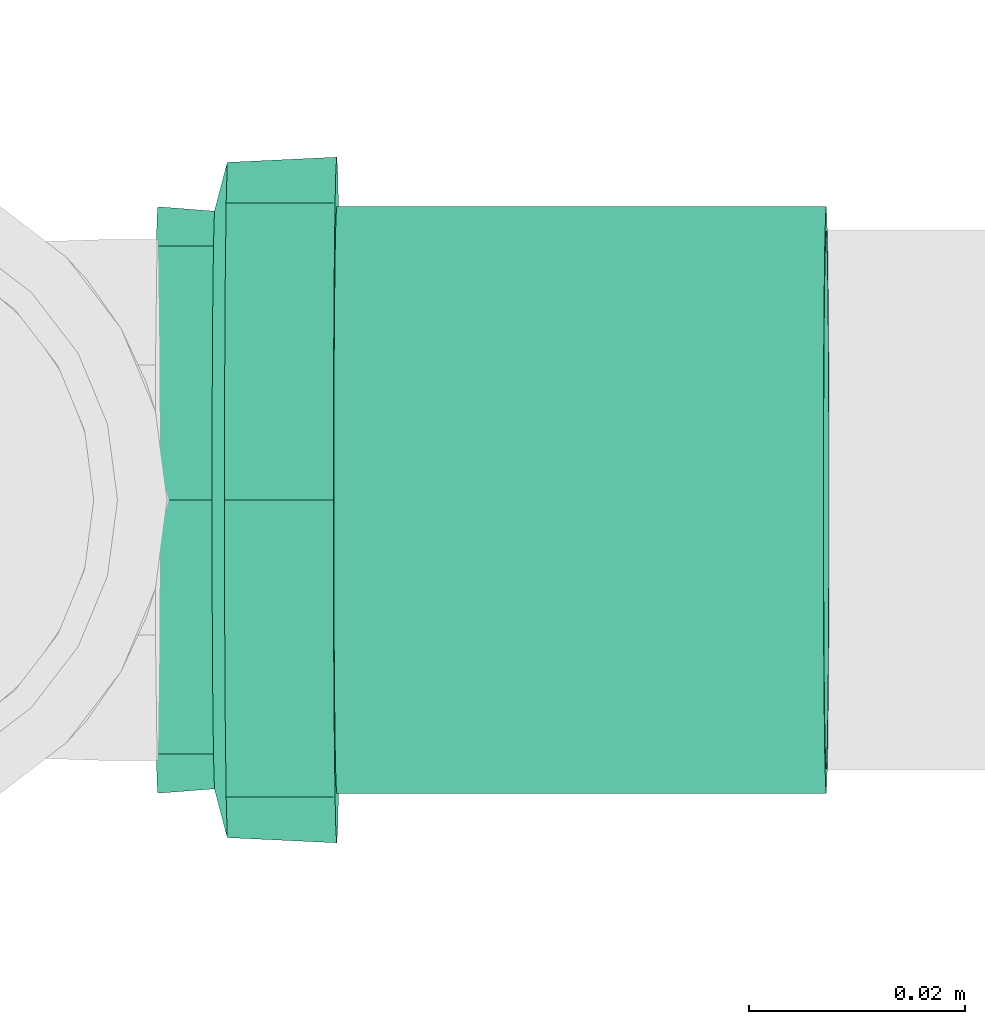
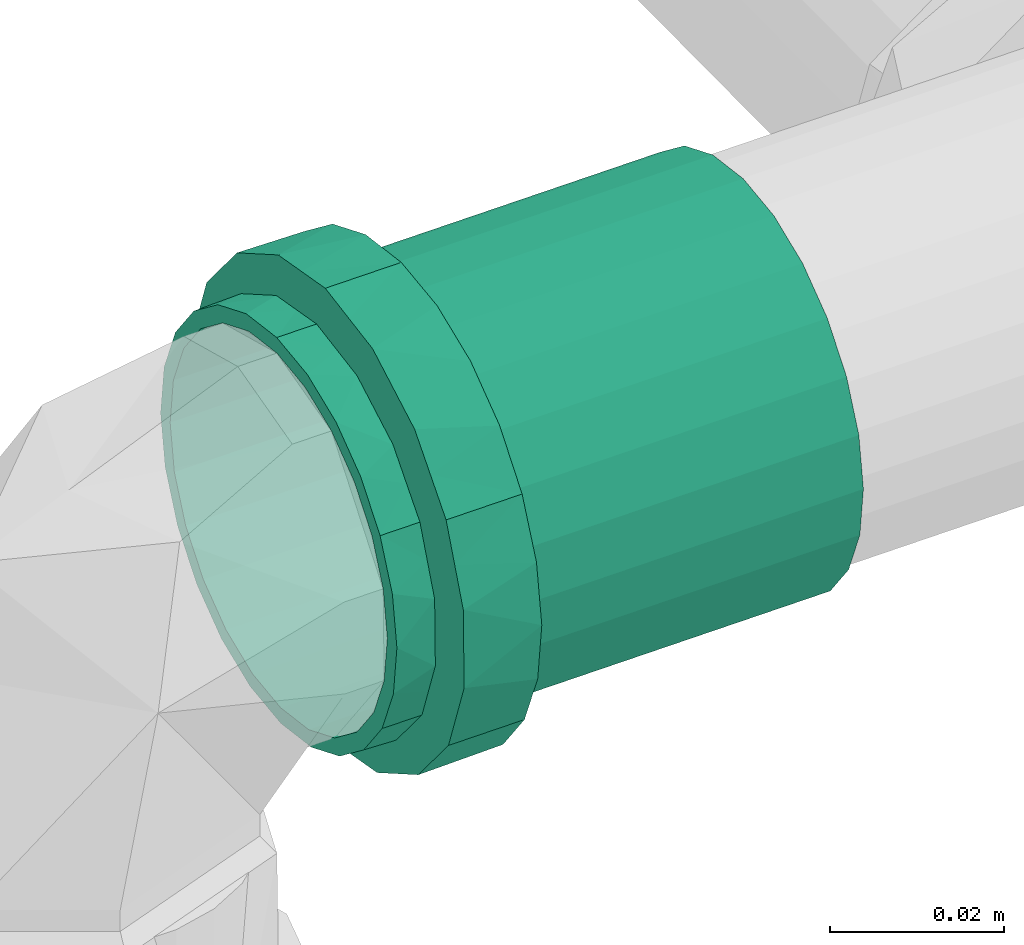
# One storey, part 150 of 589: 1 flow fitting.
"""IFC2X3 building model written with IfcOpenShell, lengths in millimetres."""

from ifc_helpers import new_model, entity, si_unit, converted_unit, derived_unit, direction, frame, origin, place, context, subcontext, project, spatial, faceted_brep, source, transform, mapped, material, type_object, type_shapes, element, save


model = new_model("IFC2X3")

# Units and contexts
model_context = context("Model", 3, precision=0.01, world=origin(), true_north=direction((6.123031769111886e-17, 1.0)))
body_context = subcontext(model_context, "Body", "Model", "MODEL_VIEW")
ifc_project = project(units=[si_unit("LENGTHUNIT", "METRE", prefix="MILLI"), si_unit("AREAUNIT", "SQUARE_METRE"), si_unit("VOLUMEUNIT", "CUBIC_METRE"), converted_unit("PLANEANGLEUNIT", "DEGREE", entity("IfcRatioMeasure", 0.017453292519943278), si_unit("PLANEANGLEUNIT", "RADIAN"), dimensions=[0, 0, 0, 0, 0, 0, 0]), si_unit("MASSUNIT", "GRAM", prefix="KILO"), derived_unit("MASSDENSITYUNIT", [(si_unit("MASSUNIT", "GRAM", prefix="KILO"), 1), (si_unit("LENGTHUNIT", "METRE"), -3)]), derived_unit("IONCONCENTRATIONUNIT", [(si_unit("MASSUNIT", "GRAM", prefix="KILO"), 1), (si_unit("LENGTHUNIT", "METRE"), -3)]), derived_unit("MOMENTOFINERTIAUNIT", [(si_unit("LENGTHUNIT", "METRE"), 4)]), si_unit("TIMEUNIT", "SECOND"), si_unit("FREQUENCYUNIT", "HERTZ"), si_unit("THERMODYNAMICTEMPERATUREUNIT", "DEGREE_CELSIUS"), derived_unit("THERMALTRANSMITTANCEUNIT", [(si_unit("MASSUNIT", "GRAM", prefix="KILO"), 1), (si_unit("THERMODYNAMICTEMPERATUREUNIT", "KELVIN"), -1), (si_unit("TIMEUNIT", "SECOND"), -3)]), derived_unit("THERMALCONDUCTANCEUNIT", [(si_unit("MASSUNIT", "GRAM", prefix="KILO"), 1), (si_unit("THERMODYNAMICTEMPERATUREUNIT", "KELVIN"), -1), (si_unit("TIMEUNIT", "SECOND"), -3), (si_unit("LENGTHUNIT", "METRE"), 1)]), derived_unit("VOLUMETRICFLOWRATEUNIT", [(si_unit("LENGTHUNIT", "METRE"), 3), (si_unit("TIMEUNIT", "SECOND"), -1)]), derived_unit("MASSFLOWRATEUNIT", [(si_unit("MASSUNIT", "GRAM", prefix="KILO"), 1), (si_unit("TIMEUNIT", "SECOND"), -1)]), derived_unit("ROTATIONALFREQUENCYUNIT", [(si_unit("TIMEUNIT", "SECOND"), -1)]), si_unit("ELECTRICCURRENTUNIT", "AMPERE"), si_unit("ELECTRICVOLTAGEUNIT", "VOLT"), si_unit("POWERUNIT", "WATT"), si_unit("FORCEUNIT", "NEWTON", prefix="KILO"), si_unit("ILLUMINANCEUNIT", "LUX"), si_unit("LUMINOUSFLUXUNIT", "LUMEN"), si_unit("LUMINOUSINTENSITYUNIT", "CANDELA"), derived_unit("USERDEFINED", [(si_unit("MASSUNIT", "GRAM", prefix="KILO"), -1), (si_unit("LENGTHUNIT", "METRE"), -2), (si_unit("TIMEUNIT", "SECOND"), 3), (si_unit("LUMINOUSFLUXUNIT", "LUMEN"), 1)]), derived_unit("USERDEFINED", [(si_unit("MASSUNIT", "GRAM", prefix="KILO"), 1), (si_unit("TIMEUNIT", "SECOND"), -3), (si_unit("LENGTHUNIT", "METRE"), 3), (si_unit("ELECTRICCURRENTUNIT", "AMPERE"), -2)]), derived_unit("SOUNDPOWERUNIT", [(si_unit("MASSUNIT", "GRAM", prefix="KILO"), 1), (si_unit("TIMEUNIT", "SECOND"), -3), (si_unit("LENGTHUNIT", "METRE"), 2)]), derived_unit("SOUNDPRESSUREUNIT", [(si_unit("MASSUNIT", "GRAM", prefix="KILO"), 1), (si_unit("LENGTHUNIT", "METRE"), -1), (si_unit("TIMEUNIT", "SECOND"), -2)]), derived_unit("LINEARVELOCITYUNIT", [(si_unit("LENGTHUNIT", "METRE"), 1), (si_unit("TIMEUNIT", "SECOND"), -1)]), si_unit("PRESSUREUNIT", "PASCAL"), derived_unit("USERDEFINED", [(si_unit("MASSUNIT", "GRAM", prefix="KILO"), 1), (si_unit("LENGTHUNIT", "METRE"), -2), (si_unit("TIMEUNIT", "SECOND"), -2)]), derived_unit("LINEARFORCEUNIT", [(si_unit("MASSUNIT", "GRAM", prefix="KILO"), 1), (si_unit("TIMEUNIT", "SECOND"), -2)]), derived_unit("PLANARFORCEUNIT", [(si_unit("MASSUNIT", "GRAM", prefix="KILO"), 1), (si_unit("LENGTHUNIT", "METRE"), -1), (si_unit("TIMEUNIT", "SECOND"), -2)]), derived_unit("SPECIFICHEATCAPACITYUNIT", [(si_unit("THERMODYNAMICTEMPERATUREUNIT", "KELVIN"), -1), (si_unit("LENGTHUNIT", "METRE"), 2), (si_unit("TIMEUNIT", "SECOND"), -2)]), derived_unit("HEATINGVALUEUNIT", [(si_unit("LENGTHUNIT", "METRE"), 2), (si_unit("TIMEUNIT", "SECOND"), -2)]), derived_unit("VAPORPERMEABILITYUNIT", [(si_unit("LENGTHUNIT", "METRE"), -1), (si_unit("TIMEUNIT", "SECOND"), 1)]), derived_unit("DYNAMICVISCOSITYUNIT", [(si_unit("MASSUNIT", "GRAM", prefix="KILO"), 1), (si_unit("TIMEUNIT", "SECOND"), -1), (si_unit("LENGTHUNIT", "METRE"), -1)]), derived_unit("THERMALEXPANSIONCOEFFICIENTUNIT", [(si_unit("THERMODYNAMICTEMPERATUREUNIT", "KELVIN"), -1)]), derived_unit("MODULUSOFELASTICITYUNIT", [(si_unit("MASSUNIT", "GRAM", prefix="KILO"), 1), (si_unit("LENGTHUNIT", "METRE"), -1), (si_unit("TIMEUNIT", "SECOND"), -2)]), derived_unit("ISOTHERMALMOISTURECAPACITYUNIT", [(si_unit("LENGTHUNIT", "METRE"), 3), (si_unit("MASSUNIT", "GRAM", prefix="KILO"), -1)]), derived_unit("MOISTUREDIFFUSIVITYUNIT", [(si_unit("TIMEUNIT", "SECOND"), -1), (si_unit("LENGTHUNIT", "METRE"), 2)])], contexts=[model_context])

# Site, building, storey
site_placement = place(None, origin())
site = spatial("IfcSite", under=ifc_project, at=site_placement, Name="Default", CompositionType="ELEMENT")
building_placement = place(site_placement, origin())
building = spatial("IfcBuilding", under=site, at=building_placement, CompositionType="ELEMENT")
storey_placement = place(building_placement, frame((0.0, 0.0, 100.0)))
storey = spatial("IfcBuildingStorey", under=building, at=storey_placement, Name="TÉRREO", CompositionType="ELEMENT", Elevation=100.0)

# Flow fitting
ifc_material = material(Name="PVC Série Normal")
pipe_fitting_type = type_object("IfcPipeFittingType", Name="PVC Esgoto_Luva Simples para Conexão_Rodrigo MEP:Standard", PredefinedType="NOTDEFINED", material=ifc_material)
shared_shape = source(origin(), body_context, "Body", "Brep", [
    faceted_brep([(16.599999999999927, 15.900000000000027, -27.53960784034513), (16.599999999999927, 22.485995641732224, -22.485995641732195), (16.599999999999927, 13.599999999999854, -23.555890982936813), (16.599999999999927, 7.039878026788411, -26.273182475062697), (16.599999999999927, 8.2304456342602, -30.71644127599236), (16.599999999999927, 19.233304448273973, -19.233304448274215), (16.599999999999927, 27.539607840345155, -15.899999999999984), (16.599999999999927, 23.55589098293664, -13.600000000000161), (16.599999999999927, 26.273182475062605, -7.03987802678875), (16.599999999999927, 30.716441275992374, -8.230445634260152), (16.599999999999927, 27.2, 0.0), (16.599999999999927, 31.8, 0.0), (16.599999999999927, 26.273182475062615, 7.0398780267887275), (16.599999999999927, 30.71644127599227, 8.23044563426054), (16.599999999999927, 23.555890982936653, 13.60000000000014), (16.599999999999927, 27.539607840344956, 15.900000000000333), (16.599999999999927, 19.233304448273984, 19.2333044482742), (16.599999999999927, 22.485995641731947, 22.48599564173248), (16.599999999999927, 13.599999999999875, 23.555890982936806), (16.599999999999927, 15.899999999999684, 27.53960784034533), (16.599999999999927, 7.039878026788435, 26.27318247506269), (16.599999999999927, 8.230445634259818, 30.716441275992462), (16.599999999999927, 0.0, 27.2), (16.599999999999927, 0.0, 31.8), (16.599999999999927, -7.039878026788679, 26.273182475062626), (16.599999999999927, -8.230445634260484, 30.716441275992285), (16.599999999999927, -13.600000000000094, 23.555890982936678), (16.599999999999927, -15.900000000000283, 27.53960784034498), (16.599999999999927, -19.23330444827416, 19.233304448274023), (16.599999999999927, -22.485995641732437, 22.48599564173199), (16.599999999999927, -23.55589098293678, 13.59999999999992), (16.599999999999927, -27.539607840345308, 15.899999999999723), (16.599999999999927, -30.71644127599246, 8.230445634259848), (16.599999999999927, -26.273182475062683, 7.039878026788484), (16.599999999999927, -31.8, 0.0), (16.599999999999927, -27.2, 0.0), (16.599999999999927, -30.71644127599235, -8.23044563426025), (16.599999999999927, -26.273182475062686, -7.03987802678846), (16.599999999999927, -27.53960784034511, -15.90000000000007), (16.599999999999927, -23.55589098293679, -13.599999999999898), (16.599999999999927, -22.485995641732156, -22.485995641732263), (16.599999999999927, -19.233304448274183, -19.233304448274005), (16.599999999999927, -15.899999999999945, -27.53960784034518), (16.599999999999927, -13.600000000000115, -23.555890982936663), (16.599999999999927, -8.230445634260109, -30.716441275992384), (16.599999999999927, -7.039878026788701, -26.273182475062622), (16.599999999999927, 0.0, -31.8), (16.599999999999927, 0.0, -27.2), (6.500000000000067, -10.708108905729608, 29.429219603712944), (6.500000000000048, -24.359073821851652, 20.44200387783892), (6.500000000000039, -27.120498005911, 15.6595386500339), (6.50000000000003, -29.881922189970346, 10.877073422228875), (6.500000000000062, -15.89769721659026, 27.540937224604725), (6.500000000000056, -20.128385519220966, 23.991470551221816), (6.50000000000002, -30.840961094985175, 5.438536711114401), (6.5000000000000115, -31.8, 0.0), (6.50000000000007, -5.518520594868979, 31.317501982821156), (6.500000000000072, 5.526376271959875, 31.316116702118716), (6.50000000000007, 0.00392783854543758, 31.316809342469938), (6.500000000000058, 20.134403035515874, 23.986420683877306), (6.500000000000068, 10.715490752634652, 29.42653259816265), (6.500000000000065, 15.904605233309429, 27.536948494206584), (6.500000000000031, 29.8846497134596, 10.869577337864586), (6.500000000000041, 27.12442527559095, 15.652735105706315), (6.5000000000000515, 24.364200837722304, 20.435892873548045), (6.5000000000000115, 31.8, 0.0), (6.499999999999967, 24.364200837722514, -20.435892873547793), (6.499999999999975, 27.12442527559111, -15.652735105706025), (6.499999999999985, 29.884649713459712, -10.869577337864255), (6.4999999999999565, 15.904605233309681, -27.53694849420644), (6.499999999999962, 20.134403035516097, -23.986420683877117), (6.499999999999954, 10.715490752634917, -29.42653259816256), (6.499999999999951, 5.526376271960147, -31.31611670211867), (6.499999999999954, -5.518520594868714, -31.317501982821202), (6.499999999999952, 0.003927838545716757, -31.316809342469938), (6.499999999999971, -20.128385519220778, -23.99147055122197), (6.499999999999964, -15.897697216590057, -27.54093722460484), (6.499999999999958, -10.70810890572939, -29.42921960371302), (6.499999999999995, -29.881922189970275, -10.877073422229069), (6.499999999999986, -27.12049800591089, -15.659538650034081), (6.499999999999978, -24.359073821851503, -20.442003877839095), (6.500000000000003, -30.840961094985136, -5.438536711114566), (6.499999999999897, -30.696173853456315, -6.259599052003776), (62.0, 13.600000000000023, -23.55589098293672), (62.0, 19.233304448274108, -19.23330444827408), (62.0, 12.499999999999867, -21.650635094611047), (62.0, 6.470476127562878, -24.14814565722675), (62.0, 7.039878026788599, -26.273182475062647), (62.0, 17.677669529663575, -17.677669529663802), (62.0, 23.55589098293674, -13.599999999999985), (62.0, 21.65063509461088, -12.50000000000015), (62.0, 24.148145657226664, -6.470476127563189), (62.0, 26.27318247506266, -7.039878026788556), (62.0, 25.0, 0.0), (62.0, 27.2, 0.0), (62.0, 24.148145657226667, 6.4704761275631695), (62.0, 26.273182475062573, 7.03987802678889), (62.0, 21.650635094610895, 12.500000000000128), (62.0, 23.555890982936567, 13.600000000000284), (62.0, 17.67766952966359, 17.67766952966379), (62.0, 19.233304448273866, 19.233304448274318), (62.0, 12.499999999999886, 21.650635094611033), (62.0, 13.59999999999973, 23.55589098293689), (62.0, 6.4704761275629, 24.14814565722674), (62.0, 7.039878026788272, 26.273182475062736), (62.0, 0.0, 25.0), (62.0, 0.0, 27.2), (62.0, -6.470476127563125, 24.148145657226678), (62.0, -7.039878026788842, 26.273182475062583), (62.0, -12.500000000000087, 21.650635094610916), (62.0, -13.600000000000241, 23.555890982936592), (62.0, -17.677669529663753, 17.677669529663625), (62.0, -19.233304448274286, 19.2333044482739), (62.0, -21.65063509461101, 12.499999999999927), (62.0, -23.555890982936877, 13.599999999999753), (62.0, -26.27318247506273, 7.039878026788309), (62.0, -24.14814565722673, 6.470476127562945), (62.0, -27.2, 0.0), (62.0, -25.0, 0.0), (62.0, -26.27318247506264, -7.0398780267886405), (62.0, -24.148145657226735, -6.470476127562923), (62.0, -23.5558909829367, -13.600000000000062), (62.0, -21.650635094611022, -12.499999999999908), (62.0, -19.233304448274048, -19.233304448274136), (62.0, -17.67766952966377, -17.677669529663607), (62.0, -13.599999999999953, -23.555890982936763), (62.0, -12.500000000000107, -21.650635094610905), (62.0, -7.039878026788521, -26.27318247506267), (62.0, -6.470476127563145, -24.148145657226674), (62.0, 0.0, -27.2), (62.0, 0.0, -25.0), (0.0, 12.499999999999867, -21.650635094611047), (0.0, 19.233304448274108, -19.23330444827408), (0.0, 13.600000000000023, -23.55589098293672), (0.0, 6.470476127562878, -24.14814565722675), (0.0, 17.677669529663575, -17.677669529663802), (0.0, 23.55589098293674, -13.599999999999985), (0.0, 21.65063509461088, -12.50000000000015), (0.0, 24.148145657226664, -6.470476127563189), (0.0, 26.27318247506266, -7.039878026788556), (0.0, 25.0, 0.0), (0.0, 27.2, 0.0), (0.0, 24.148145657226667, 6.4704761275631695), (0.0, 26.273182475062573, 7.03987802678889), (0.0, 21.650635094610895, 12.500000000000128), (0.0, 23.555890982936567, 13.600000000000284), (0.0, 17.67766952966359, 17.67766952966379), (0.0, 19.233304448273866, 19.233304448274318), (0.0, 12.499999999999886, 21.650635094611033), (0.0, 13.59999999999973, 23.55589098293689), (0.0, 6.4704761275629, 24.14814565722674), (0.0, 7.039878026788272, 26.273182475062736), (0.0, 0.0, 25.0), (0.0, 0.0, 27.2), (0.0, -6.470476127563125, 24.148145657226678), (0.0, -7.039878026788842, 26.273182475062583), (0.0, -12.500000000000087, 21.650635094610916), (0.0, -13.600000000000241, 23.555890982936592), (0.0, -17.677669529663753, 17.677669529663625), (0.0, -19.233304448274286, 19.2333044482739), (0.0, -21.65063509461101, 12.499999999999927), (0.0, -23.555890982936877, 13.599999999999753), (0.0, -26.27318247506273, 7.039878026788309), (0.0, -24.14814565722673, 6.470476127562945), (0.0, -27.2, 0.0), (0.0, -25.0, 0.0), (0.0, -26.27318247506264, -7.0398780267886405), (0.0, -24.148145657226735, -6.470476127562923), (0.0, -23.5558909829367, -13.600000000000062), (0.0, -21.650635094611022, -12.499999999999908), (0.0, -19.233304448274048, -19.233304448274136), (0.0, -17.67766952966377, -17.677669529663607), (0.0, -13.599999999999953, -23.555890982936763), (0.0, -12.500000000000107, -21.650635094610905), (0.0, -7.039878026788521, -26.27318247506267), (0.0, -6.470476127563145, -24.148145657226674), (0.0, 0.0, -27.2), (0.0, 0.0, -25.0), (0.0, 7.039878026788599, -26.273182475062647), (5.300000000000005, -26.37968999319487, 4.651830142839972), (5.299999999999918, -26.25584678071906, 5.354122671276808), (5.300000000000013, -25.559379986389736, 9.303660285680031), (5.300000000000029, -20.835434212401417, 17.48498444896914), (5.300000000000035, -17.216732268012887, 20.521006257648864), (5.300000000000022, -23.19740709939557, 13.394322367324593), (5.3000000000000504, -4.720244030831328, 26.787297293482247), (5.300000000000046, -9.15913717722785, 25.172162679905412), (5.299999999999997, -27.2, 0.0), (5.300000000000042, -13.598030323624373, 23.557028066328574), (5.300000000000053, 9.165451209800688, 25.169864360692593), (5.300000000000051, 13.603939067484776, 23.55361632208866), (5.300000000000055, 4.7269633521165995, 26.786112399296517), (5.300000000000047, 17.221879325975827, 20.516686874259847), (5.300000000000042, 20.839819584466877, 17.479757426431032), (5.3000000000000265, 25.56171296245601, 9.297248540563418), (5.299999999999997, 27.2, 0.0), (5.3000000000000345, 23.20076627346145, 13.388502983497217), (5.300000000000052, 0.003359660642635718, 26.786704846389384), (5.299999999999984, 25.56171296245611, -9.29724854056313), (5.299999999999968, 20.839819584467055, -17.47975742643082), (5.2999999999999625, 17.22187932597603, -20.516686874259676), (5.299999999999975, 23.200766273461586, -13.388502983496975), (5.299999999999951, 4.726963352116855, -26.78611239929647), (5.2999999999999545, 9.165451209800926, -25.169864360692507), (5.299999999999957, 13.603939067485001, -23.553616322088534), (5.29999999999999, -26.379689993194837, -4.651830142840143), (5.299999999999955, -9.159137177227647, -25.17216267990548), (5.299999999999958, -13.5980303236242, -23.55702806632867), (5.299999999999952, -4.720244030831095, -26.787297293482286), (5.299999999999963, -17.216732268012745, -20.52100625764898), (5.299999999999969, -20.83543421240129, -17.484984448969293), (5.299999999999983, -25.559379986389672, -9.303660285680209), (5.299999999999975, -23.197407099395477, -13.394322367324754), (5.299999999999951, 0.003359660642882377, -26.78670484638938), (39.0, -25.0, 0.0), (39.0, 25.0, 0.0)], [[[0, 1, 2]], [[0, 2, 3]], [[3, 4, 0]], [[2, 1, 5]], [[6, 5, 1]], [[7, 5, 6]], [[8, 7, 6]], [[8, 6, 9]], [[8, 9, 10]], [[10, 9, 11]], [[12, 10, 11]], [[12, 11, 13]], [[14, 12, 13]], [[14, 13, 15]], [[16, 14, 15]], [[15, 17, 16]], [[17, 18, 16]], [[17, 19, 18]], [[18, 19, 20]], [[21, 20, 19]], [[20, 21, 22]], [[22, 21, 23]], [[22, 23, 24]], [[24, 23, 25]], [[24, 25, 26]], [[27, 26, 25]], [[27, 28, 26]], [[28, 27, 29]], [[30, 28, 29]], [[31, 30, 29]], [[32, 30, 31]], [[33, 30, 32]], [[33, 32, 34]], [[35, 33, 34]], [[36, 35, 34]], [[36, 37, 35]], [[37, 36, 38]], [[39, 37, 38]], [[39, 38, 40]], [[39, 40, 41]], [[40, 42, 41]], [[41, 42, 43]], [[43, 42, 44]], [[44, 45, 43]], [[46, 45, 44]], [[4, 47, 46]], [[46, 47, 45]], [[4, 3, 47]], [[48, 27, 25]], [[31, 29, 49]], [[31, 49, 50, 51]], [[52, 53, 27]], [[32, 51, 54]], [[54, 55, 34]], [[54, 34, 32]], [[25, 56, 48]], [[49, 29, 53]], [[23, 57, 58, 56]], [[59, 19, 17]], [[27, 53, 29]], [[48, 52, 27]], [[31, 51, 32]], [[57, 23, 21]], [[60, 19, 61]], [[15, 62, 63, 64]], [[19, 60, 21]], [[15, 13, 62]], [[17, 64, 59]], [[57, 21, 60]], [[23, 56, 25]], [[15, 64, 17]], [[13, 65, 62]], [[13, 11, 65]], [[59, 61, 19]], [[65, 11, 9]], [[6, 1, 66]], [[6, 66, 67, 68]], [[69, 70, 0]], [[68, 65, 9]], [[71, 69, 0]], [[71, 0, 4]], [[4, 72, 71]], [[66, 1, 70]], [[46, 73, 74, 72]], [[75, 76, 42]], [[0, 70, 1]], [[75, 42, 40]], [[6, 68, 9]], [[73, 46, 44]], [[77, 42, 76]], [[38, 78, 79, 80]], [[42, 77, 44]], [[38, 36, 78]], [[40, 80, 75]], [[73, 44, 77]], [[46, 72, 4]], [[38, 80, 40]], [[36, 81, 82, 78]], [[55, 81, 34]], [[34, 81, 36]], [[83, 84, 85]], [[83, 85, 86]], [[86, 87, 83]], [[85, 84, 88]], [[89, 88, 84]], [[88, 89, 90]], [[90, 89, 91]], [[92, 91, 89]], [[92, 93, 91]], [[93, 92, 94]], [[95, 93, 94]], [[94, 96, 95]], [[95, 96, 97]], [[98, 97, 96]], [[97, 98, 99]], [[99, 98, 100]], [[101, 99, 100]], [[100, 102, 101]], [[101, 102, 103]], [[104, 103, 102]], [[103, 104, 105]], [[105, 104, 106]], [[105, 106, 107]], [[107, 106, 108]], [[107, 108, 109]], [[110, 109, 108]], [[110, 111, 109]], [[111, 110, 112]], [[112, 113, 111]], [[114, 113, 112]], [[113, 114, 115]], [[115, 116, 113]], [[117, 116, 115]], [[117, 118, 116]], [[119, 118, 117]], [[119, 120, 118]], [[120, 119, 121]], [[121, 122, 120]], [[122, 121, 123]], [[122, 123, 124]], [[123, 125, 124]], [[124, 125, 126]], [[126, 125, 127]], [[127, 128, 126]], [[129, 128, 127]], [[87, 130, 129]], [[129, 130, 128]], [[87, 86, 130]], [[131, 132, 133]], [[134, 131, 133]], [[135, 132, 131]], [[132, 135, 136]], [[137, 136, 135]], [[138, 136, 137]], [[136, 138, 139]], [[138, 140, 139]], [[141, 139, 140]], [[141, 140, 142]], [[142, 143, 141]], [[144, 143, 142]], [[143, 144, 145]], [[146, 145, 144]], [[147, 145, 146]], [[147, 146, 148]], [[148, 149, 147]], [[150, 149, 148]], [[149, 150, 151]], [[152, 151, 150]], [[153, 151, 152]], [[154, 153, 152]], [[155, 153, 154]], [[156, 155, 154]], [[155, 156, 157]], [[156, 158, 157]], [[159, 157, 158]], [[158, 160, 159]], [[159, 160, 161]], [[162, 161, 160]], [[160, 163, 162]], [[162, 163, 164]], [[163, 165, 164]], [[164, 165, 166]], [[165, 167, 166]], [[168, 166, 167]], [[167, 169, 168]], [[170, 168, 169]], [[171, 170, 169]], [[171, 172, 170]], [[173, 172, 171]], [[174, 172, 173]], [[173, 175, 174]], [[174, 175, 176]], [[175, 177, 176]], [[177, 134, 178]], [[176, 177, 178]], [[133, 178, 134]], [[162, 179, 180, 181]], [[159, 182, 183]], [[182, 161, 181, 184]], [[185, 155, 186]], [[161, 162, 181]], [[187, 179, 164]], [[183, 188, 157]], [[183, 157, 159]], [[161, 182, 159]], [[189, 190, 149]], [[189, 149, 151]], [[157, 188, 186]], [[157, 186, 155]], [[153, 155, 185]], [[164, 179, 162]], [[151, 191, 189]], [[147, 192, 193]], [[143, 194, 195]], [[194, 145, 193, 196]], [[143, 195, 141]], [[10, 12, 96, 94]], [[149, 192, 147]], [[153, 185, 197, 191]], [[153, 191, 151]], [[145, 147, 193]], [[190, 192, 149]], [[145, 194, 143]], [[139, 195, 198]], [[132, 199, 200]], [[199, 136, 198, 201]], [[202, 178, 203]], [[136, 139, 198]], [[139, 141, 195]], [[92, 8, 10, 94]], [[133, 203, 178]], [[200, 204, 133]], [[136, 199, 132]], [[205, 164, 166]], [[206, 207, 172]], [[133, 204, 203]], [[206, 172, 174]], [[176, 178, 202]], [[200, 133, 132]], [[174, 208, 206]], [[170, 209, 210]], [[166, 211, 205]], [[211, 168, 210, 212]], [[168, 211, 166]], [[172, 209, 170]], [[176, 202, 213, 208]], [[176, 208, 174]], [[168, 170, 210]], [[207, 209, 172]], [[205, 187, 164]], [[116, 118, 214, 165, 163]], [[156, 109, 111, 158]], [[111, 113, 160, 158]], [[113, 116, 163, 160]], [[107, 109, 156, 154]], [[154, 152, 105, 107]], [[103, 105, 152, 150]], [[103, 150, 148, 101]], [[142, 95, 97, 144]], [[97, 99, 146, 144]], [[99, 101, 148, 146]], [[93, 95, 142, 140, 215]], [[215, 140, 138, 91, 93]], [[135, 131, 85, 88]], [[90, 91, 138, 137]], [[90, 137, 135, 88]], [[86, 85, 131, 134]], [[134, 177, 130, 86]], [[128, 130, 177, 175]], [[128, 175, 173, 126]], [[167, 120, 122, 169]], [[122, 124, 171, 169]], [[124, 126, 173, 171]], [[118, 120, 167, 165, 214]], [[211, 78, 82, 81, 55, 187, 205]], [[79, 78, 211, 212, 210, 80]], [[75, 80, 210, 209, 207, 76]], [[207, 206, 208, 73, 77, 76]], [[213, 202, 72, 74, 73, 208]], [[203, 204, 69, 71, 72, 202]], [[198, 195, 65, 68]], [[199, 201, 198, 68, 67, 66]], [[204, 200, 199, 66, 70, 69]], [[195, 194, 62, 65]], [[197, 185, 56, 58, 57, 191]], [[63, 62, 194, 196, 193, 64]], [[57, 60, 61, 190, 189, 191]], [[193, 192, 190, 61, 59, 64]], [[48, 56, 185, 186, 188, 52]], [[187, 55, 54, 51, 181, 180, 179]], [[182, 184, 181, 51, 50, 49]], [[188, 183, 182, 49, 53, 52]], [[30, 33, 115, 114]], [[117, 115, 33, 35]], [[26, 28, 112, 110]], [[114, 112, 28, 30]], [[24, 26, 110, 108]], [[108, 106, 22, 24]], [[18, 20, 104, 102]], [[100, 16, 18, 102]], [[12, 14, 98, 96]], [[100, 98, 14, 16]], [[104, 20, 22, 106]], [[89, 7, 8, 92]], [[83, 87, 3, 2]], [[7, 89, 84, 5]], [[83, 2, 5, 84]], [[87, 129, 47, 3]], [[43, 45, 127, 125]], [[123, 41, 43, 125]], [[37, 39, 121, 119]], [[123, 121, 39, 41]], [[35, 37, 119, 117]], [[127, 45, 47, 129]]]),
])
type_shapes(pipe_fitting_type, [shared_shape])
flow_fitting_placement = place(storey_placement, frame((7700.382604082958, -8422.90630799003, 3062.509397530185), z_axis=(0.0, 1.0, 0.0), x_axis=(0.9999500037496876, 0.0, 0.009999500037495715)))
element("IfcFlowFitting", 1, at=flow_fitting_placement, inside=storey, type_object=pipe_fitting_type, material=ifc_material, Name="PVC Esgoto_Luva Simples para Conexão_Rodrigo MEP:Standard", ObjectType="PVC Esgoto_Luva Simples para Conexão_Rodrigo MEP:Standard", context=body_context, shape_type="MappedRepresentation", body=[
    mapped(shared_shape, transform((0.0, 0.0, 0.0), scale=1.0)),
])

save(model, "model.ifc")
